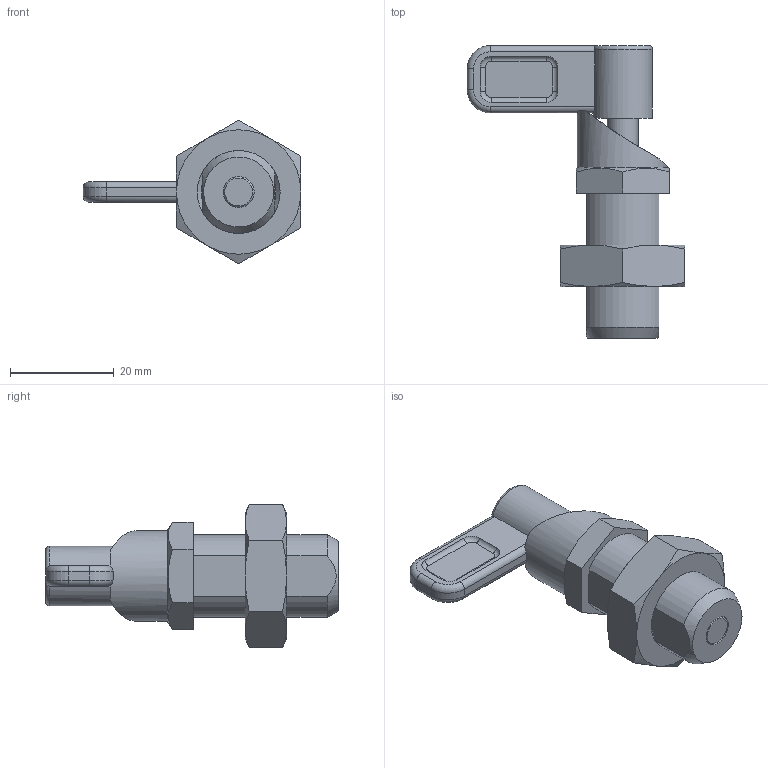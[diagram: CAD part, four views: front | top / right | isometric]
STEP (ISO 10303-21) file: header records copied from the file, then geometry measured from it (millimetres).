
FILE_DESCRIPTION( ( 'STEP AP203' ), '1' );
FILE_NAME( 'C:/Temp/Ganter_Step_05_03_2020/data/3_1/gn_612.8/gn612_8_ak/Indexing plunger GN 612.8-6-M16x1,5-AK (activated).stp', '2020-03-12T09:12:35', ( 'License CC BY-ND 4.0' ), ( 'CADENAS' ), ' ', 'PARTsolutions', ' ' );
FILE_SCHEMA( ( 'CONFIG_CONTROL_DESIGN' ) );
Length unit declared in the file: millimetre
Products named in the file (4): Indexing plunger GN 612.8-6-M16x1,5-AK (activated); _Indexing plunger GN 612.8-6-M16x1,5-AK (2)_2; _Indexing plunger GN 612.8-6-M16x1,5-AK (2)_1; _Indexing plunger GN 612.8-6-M16x1,5-AK (1)_3
Assembly tree (3 placements, depth 2):
  Indexing plunger GN 612.8-6-M16x1,5-AK (activated)
    _Indexing plunger GN 612.8-6-M16x1,5-AK (2)_2
    _Indexing plunger GN 612.8-6-M16x1,5-AK (2)_1
    _Indexing plunger GN 612.8-6-M16x1,5-AK (1)_3
Bounding box: 42 x 56.5 x 27.71 mm (x, y, z)
Volume: 12604.4 mm3; surface area: 7322.8 mm2
Topology: 3 solids, 3 shells, 97 faces, 221 edges, 139 vertices
Faces by surface type: plane 35, cylinder 32, cone 17, torus 13
Full cylindrical faces by diameter (mm): 6 x4, 7 x2, 11.5 x1, 12.5 x1, 14.376 x1, 17.5 x1
Entity records: 3183 total; most frequent: CARTESIAN_POINT 948, DIRECTION 448, ORIENTED_EDGE 408, EDGE_CURVE 204, AXIS2_PLACEMENT_3D 192, VERTEX_POINT 136, EDGE_LOOP 124, FACE_OUTER_BOUND 106
